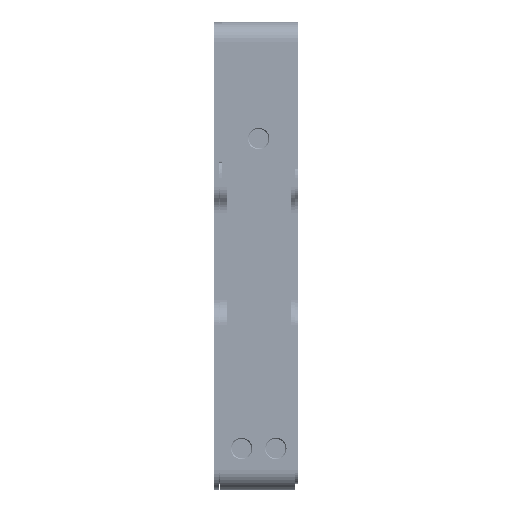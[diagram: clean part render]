
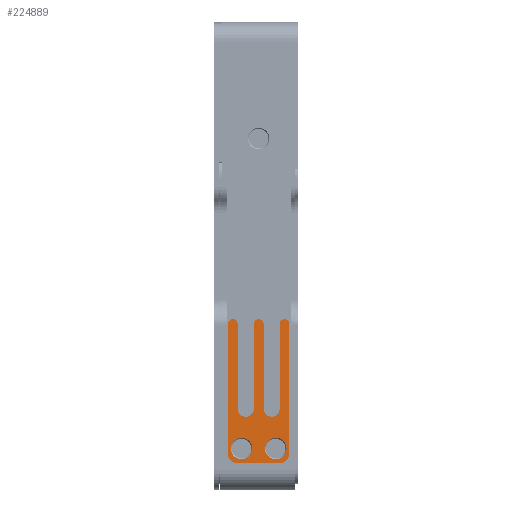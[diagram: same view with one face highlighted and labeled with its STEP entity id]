
A CAD part, left-side view. The second image highlights one B-rep face of the part: STEP entity #224889.
In plain terms, the highlighted planar face has unit normal (-1, 0, 0) as drawn and (0, 0, 1) by its records, which use the part's own axes.
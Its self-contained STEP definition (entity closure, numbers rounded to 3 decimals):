
#641 = CARTESIAN_POINT ( 'NONE',  ( -24.1, 1., 2.5 ) ) ;
#1607 = DIRECTION ( 'NONE',  ( -1., 0., 0. ) ) ;
#5982 = CIRCLE ( 'NONE', #137545, 1.65 ) ;
#6256 = CARTESIAN_POINT ( 'NONE',  ( -35.25, -4.3, 2.5 ) ) ;
#6518 = CIRCLE ( 'NONE', #211502, 1.65 ) ;
#7584 = CARTESIAN_POINT ( 'NONE',  ( -6.75, 6.3, 2.5 ) ) ;
#8389 = DIRECTION ( 'NONE',  ( -1., 0., 0. ) ) ;
#12939 = DIRECTION ( 'NONE',  ( 0., 0., 1. ) ) ;
#13785 = EDGE_CURVE ( 'NONE', #25026, #25026, #135718, .T. ) ;
#15212 = CARTESIAN_POINT ( 'NONE',  ( -24.1, -4.3, 2.5 ) ) ;
#15972 = AXIS2_PLACEMENT_3D ( 'NONE', #49481, #47095, #192457 ) ;
#16425 = DIRECTION ( 'NONE',  ( -1., 0., 0. ) ) ;
#17359 = DIRECTION ( 'NONE',  ( -1., 0., 0. ) ) ;
#18089 = ORIENTED_EDGE ( 'NONE', *, *, #224007, .T. ) ;
#22308 = CARTESIAN_POINT ( 'NONE',  ( -24.1, -2.65, 2.5 ) ) ;
#25026 = VERTEX_POINT ( 'NONE', #102401 ) ;
#28183 = DIRECTION ( 'NONE',  ( 1., 0., 0. ) ) ;
#28510 = EDGE_CURVE ( 'NONE', #73825, #187842, #50134, .T. ) ;
#28996 = LINE ( 'NONE', #157316, #233381 ) ;
#29707 = ORIENTED_EDGE ( 'NONE', *, *, #159458, .T. ) ;
#33597 = VERTEX_POINT ( 'NONE', #86383 ) ;
#34501 = CARTESIAN_POINT ( 'NONE',  ( 0., 0., 2.5 ) ) ;
#39100 = DIRECTION ( 'NONE',  ( 0., -1., 0. ) ) ;
#47095 = DIRECTION ( 'NONE',  ( 0., 0., 1. ) ) ;
#48084 = CARTESIAN_POINT ( 'NONE',  ( -35.25, -6.3, 2.5 ) ) ;
#48983 = EDGE_CURVE ( 'NONE', #183953, #147779, #220147, .T. ) ;
#49481 = CARTESIAN_POINT ( 'NONE',  ( -6.75, 5.3, 2.5 ) ) ;
#49872 = ORIENTED_EDGE ( 'NONE', *, *, #52263, .T. ) ;
#50068 = DIRECTION ( 'NONE',  ( 0., 0., 1. ) ) ;
#50134 = LINE ( 'NONE', #104618, #125627 ) ;
#50382 = CARTESIAN_POINT ( 'NONE',  ( -6.75, 0., 2.5 ) ) ;
#52263 = EDGE_CURVE ( 'NONE', #104398, #137183, #166070, .T. ) ;
#52781 = VECTOR ( 'NONE', #212720, 1000. ) ;
#53129 = EDGE_LOOP ( 'NONE', ( #69858, #18089, #198258, #124146, #176881, #95458, #153582, #208058, #143252, #29707, #135120, #108871, #71580, #49872 ) ) ;
#53828 = FACE_BOUND ( 'NONE', #228003, .T. ) ;
#54877 = CARTESIAN_POINT ( 'NONE',  ( -24.1, 2.65, 2.5 ) ) ;
#56996 = CIRCLE ( 'NONE', #114968, 1. ) ;
#57417 = PLANE ( 'NONE',  #78622 ) ;
#58174 = CARTESIAN_POINT ( 'NONE',  ( -25.75, 1., 2.5 ) ) ;
#58998 = DIRECTION ( 'NONE',  ( 1., 0., 0. ) ) ;
#59017 = DIRECTION ( 'NONE',  ( -1., 0., 0. ) ) ;
#59106 = VERTEX_POINT ( 'NONE', #99690 ) ;
#59357 = LINE ( 'NONE', #58174, #110511 ) ;
#64488 = DIRECTION ( 'NONE',  ( 0., 0., 1. ) ) ;
#69858 = ORIENTED_EDGE ( 'NONE', *, *, #179349, .T. ) ;
#71580 = ORIENTED_EDGE ( 'NONE', *, *, #194798, .T. ) ;
#72085 = EDGE_CURVE ( 'NONE', #187842, #183953, #5982, .T. ) ;
#72174 = CARTESIAN_POINT ( 'NONE',  ( -32.25, 3.5, 2.5 ) ) ;
#73825 = VERTEX_POINT ( 'NONE', #85839 ) ;
#76734 = FACE_BOUND ( 'NONE', #146979, .T. ) ;
#77129 = CARTESIAN_POINT ( 'NONE',  ( -25.75, -4.3, 2.5 ) ) ;
#78622 = AXIS2_PLACEMENT_3D ( 'NONE', #34501, #108369, #127724 ) ;
#83964 = VECTOR ( 'NONE', #58998, 1000. ) ;
#85839 = CARTESIAN_POINT ( 'NONE',  ( -6.75, -1., 2.5 ) ) ;
#86383 = CARTESIAN_POINT ( 'NONE',  ( -33.25, 6.3, 2.5 ) ) ;
#92546 = AXIS2_PLACEMENT_3D ( 'NONE', #72174, #12939, #143705 ) ;
#93702 = DIRECTION ( 'NONE',  ( -1., 0., 0. ) ) ;
#94131 = CARTESIAN_POINT ( 'NONE',  ( -25.75, 4.3, 2.5 ) ) ;
#95458 = ORIENTED_EDGE ( 'NONE', *, *, #170180, .T. ) ;
#99690 = CARTESIAN_POINT ( 'NONE',  ( -6.75, -6.3, 2.5 ) ) ;
#101989 = CARTESIAN_POINT ( 'NONE',  ( -32.25, -3.5, 2.5 ) ) ;
#102401 = CARTESIAN_POINT ( 'NONE',  ( -30.05, -3.5, 2.5 ) ) ;
#104398 = VERTEX_POINT ( 'NONE', #6256 ) ;
#104618 = CARTESIAN_POINT ( 'NONE',  ( -25.75, -1., 2.5 ) ) ;
#106994 = DIRECTION ( 'NONE',  ( -1., 0., 0. ) ) ;
#108369 = DIRECTION ( 'NONE',  ( 0., 0., -1. ) ) ;
#108871 = ORIENTED_EDGE ( 'NONE', *, *, #162786, .T. ) ;
#109375 = CARTESIAN_POINT ( 'NONE',  ( -6.75, -5.3, 2.5 ) ) ;
#110511 = VECTOR ( 'NONE', #224095, 1000. ) ;
#113492 = EDGE_CURVE ( 'NONE', #157695, #33597, #28996, .T. ) ;
#114968 = AXIS2_PLACEMENT_3D ( 'NONE', #50382, #236867, #16425 ) ;
#116418 = EDGE_CURVE ( 'NONE', #160230, #233371, #132900, .T. ) ;
#120338 = AXIS2_PLACEMENT_3D ( 'NONE', #101989, #64488, #28183 ) ;
#120358 = DIRECTION ( 'NONE',  ( -1., 0., 0. ) ) ;
#120608 = VERTEX_POINT ( 'NONE', #641 ) ;
#124146 = ORIENTED_EDGE ( 'NONE', *, *, #72085, .F. ) ;
#125627 = VECTOR ( 'NONE', #178511, 1000. ) ;
#127724 = DIRECTION ( 'NONE',  ( -1., 0., 0. ) ) ;
#128710 = DIRECTION ( 'NONE',  ( 0., 0., 1. ) ) ;
#129958 = DIRECTION ( 'NONE',  ( 0., 0., 1. ) ) ;
#132900 = LINE ( 'NONE', #94131, #206561 ) ;
#135120 = ORIENTED_EDGE ( 'NONE', *, *, #113492, .T. ) ;
#135718 = CIRCLE ( 'NONE', #120338, 2.2 ) ;
#137011 = VERTEX_POINT ( 'NONE', #169755 ) ;
#137183 = VERTEX_POINT ( 'NONE', #208997 ) ;
#137545 = AXIS2_PLACEMENT_3D ( 'NONE', #22308, #166412, #93702 ) ;
#138790 = CARTESIAN_POINT ( 'NONE',  ( -24.1, 4.3, 2.5 ) ) ;
#138909 = LINE ( 'NONE', #48084, #52781 ) ;
#140900 = CARTESIAN_POINT ( 'NONE',  ( -33.25, -4.3, 2.5 ) ) ;
#142505 = ORIENTED_EDGE ( 'NONE', *, *, #190438, .F. ) ;
#143252 = ORIENTED_EDGE ( 'NONE', *, *, #116418, .F. ) ;
#143705 = DIRECTION ( 'NONE',  ( 1., 0., 0. ) ) ;
#144210 = CIRCLE ( 'NONE', #167328, 2. ) ;
#144527 = CARTESIAN_POINT ( 'NONE',  ( -33.25, 4.3, 2.5 ) ) ;
#146979 = EDGE_LOOP ( 'NONE', ( #239579 ) ) ;
#147158 = EDGE_CURVE ( 'NONE', #233371, #120608, #6518, .T. ) ;
#147779 = VERTEX_POINT ( 'NONE', #156809 ) ;
#152880 = CARTESIAN_POINT ( 'NONE',  ( -35.25, -6.3, 2.5 ) ) ;
#153582 = ORIENTED_EDGE ( 'NONE', *, *, #198349, .F. ) ;
#156687 = CARTESIAN_POINT ( 'NONE',  ( -6.75, 4.3, 2.5 ) ) ;
#156809 = CARTESIAN_POINT ( 'NONE',  ( -6.75, -4.3, 2.5 ) ) ;
#157316 = CARTESIAN_POINT ( 'NONE',  ( -35.25, 6.3, 2.5 ) ) ;
#157383 = CARTESIAN_POINT ( 'NONE',  ( -35.25, 4.3, 2.5 ) ) ;
#157695 = VERTEX_POINT ( 'NONE', #7584 ) ;
#158283 = CIRCLE ( 'NONE', #92546, 2.2 ) ;
#158979 = CARTESIAN_POINT ( 'NONE',  ( -6.75, 1., 2.5 ) ) ;
#159458 = EDGE_CURVE ( 'NONE', #160230, #157695, #162869, .T. ) ;
#160230 = VERTEX_POINT ( 'NONE', #156687 ) ;
#162786 = EDGE_CURVE ( 'NONE', #33597, #228085, #144210, .T. ) ;
#162869 = CIRCLE ( 'NONE', #15972, 1. ) ;
#166070 = CIRCLE ( 'NONE', #200842, 2. ) ;
#166412 = DIRECTION ( 'NONE',  ( 0., 0., 1. ) ) ;
#167328 = AXIS2_PLACEMENT_3D ( 'NONE', #144527, #128710, #106994 ) ;
#169755 = CARTESIAN_POINT ( 'NONE',  ( -30.05, 3.5, 2.5 ) ) ;
#170180 = EDGE_CURVE ( 'NONE', #73825, #210392, #56996, .T. ) ;
#176881 = ORIENTED_EDGE ( 'NONE', *, *, #28510, .F. ) ;
#178511 = DIRECTION ( 'NONE',  ( -1., 0., 0. ) ) ;
#179349 = EDGE_CURVE ( 'NONE', #137183, #59106, #138909, .T. ) ;
#183267 = DIRECTION ( 'NONE',  ( 0., 0., 1. ) ) ;
#183953 = VERTEX_POINT ( 'NONE', #15212 ) ;
#187016 = FACE_OUTER_BOUND ( 'NONE', #53129, .T. ) ;
#187202 = VECTOR ( 'NONE', #39100, 1000. ) ;
#187842 = VERTEX_POINT ( 'NONE', #201400 ) ;
#190438 = EDGE_CURVE ( 'NONE', #137011, #137011, #158283, .T. ) ;
#192457 = DIRECTION ( 'NONE',  ( -1., 0., 0. ) ) ;
#194798 = EDGE_CURVE ( 'NONE', #228085, #104398, #204962, .T. ) ;
#198258 = ORIENTED_EDGE ( 'NONE', *, *, #48983, .F. ) ;
#198349 = EDGE_CURVE ( 'NONE', #120608, #210392, #59357, .T. ) ;
#200842 = AXIS2_PLACEMENT_3D ( 'NONE', #140900, #50068, #120358 ) ;
#201400 = CARTESIAN_POINT ( 'NONE',  ( -24.1, -1., 2.5 ) ) ;
#204962 = LINE ( 'NONE', #152880, #187202 ) ;
#206561 = VECTOR ( 'NONE', #59017, 1000. ) ;
#208058 = ORIENTED_EDGE ( 'NONE', *, *, #147158, .F. ) ;
#208997 = CARTESIAN_POINT ( 'NONE',  ( -33.25, -6.3, 2.5 ) ) ;
#209825 = AXIS2_PLACEMENT_3D ( 'NONE', #109375, #183267, #17359 ) ;
#210392 = VERTEX_POINT ( 'NONE', #158979 ) ;
#211502 = AXIS2_PLACEMENT_3D ( 'NONE', #54877, #129958, #1607 ) ;
#212720 = DIRECTION ( 'NONE',  ( 1., 0., 0. ) ) ;
#213814 = CIRCLE ( 'NONE', #209825, 1. ) ;
#220147 = LINE ( 'NONE', #77129, #83964 ) ;
#224007 = EDGE_CURVE ( 'NONE', #59106, #147779, #213814, .T. ) ;
#224095 = DIRECTION ( 'NONE',  ( 1., 0., 0. ) ) ;
#224889 = ADVANCED_FACE ( 'NONE', ( #53828, #76734, #187016 ), #57417, .F. ) ;
#228003 = EDGE_LOOP ( 'NONE', ( #142505 ) ) ;
#228085 = VERTEX_POINT ( 'NONE', #157383 ) ;
#233371 = VERTEX_POINT ( 'NONE', #138790 ) ;
#233381 = VECTOR ( 'NONE', #8389, 1000. ) ;
#236867 = DIRECTION ( 'NONE',  ( 0., 0., 1. ) ) ;
#239579 = ORIENTED_EDGE ( 'NONE', *, *, #13785, .F. ) ;
